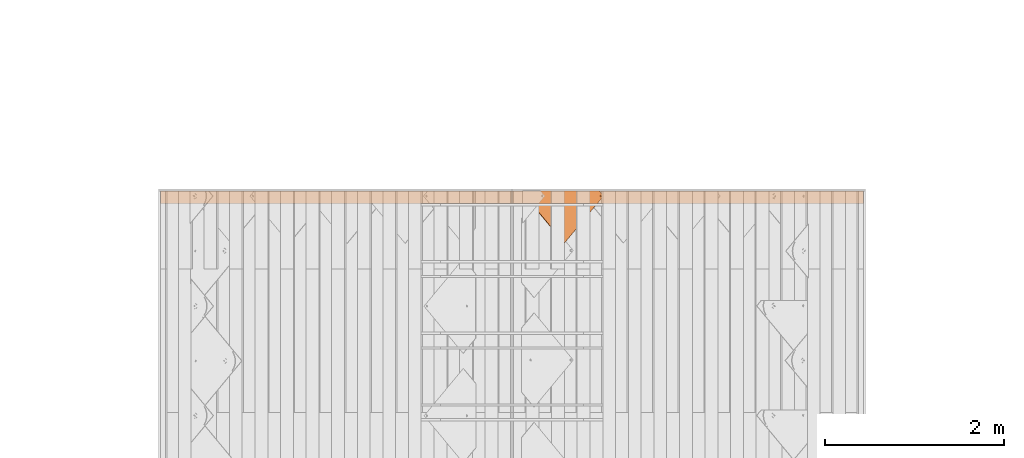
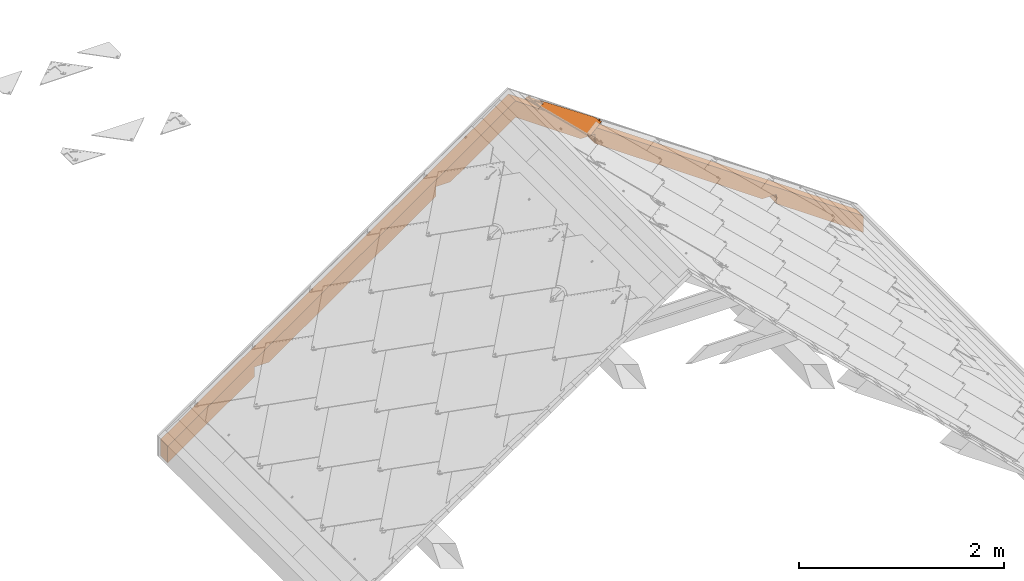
# One storey, part 94 of 151: 2 proxies, 1 element without a shape of its own.
"""IFC2X3 building model written with IfcOpenShell, lengths in millimetres."""

from ifc_helpers import new_model, entity, si_unit, converted_unit, derived_unit, direction, frame, origin, place, context, subcontext, project, spatial, polyline, outline, extrude, faceted_brep, source, transform, mapped, material, material_list, type_object, type_shapes, element, aggregate, save


model = new_model("IFC2X3")

# Units and contexts
model_context = context("Model", 3, precision=0.01, world=origin(), true_north=direction((6.12303176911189e-17, 1.0)))
body_context = subcontext(model_context, "Body", "Model", "MODEL_VIEW")
ifc_project = project(units=[si_unit("LENGTHUNIT", "METRE", prefix="MILLI"), si_unit("AREAUNIT", "SQUARE_METRE"), si_unit("VOLUMEUNIT", "CUBIC_METRE"), converted_unit("PLANEANGLEUNIT", "DEGREE", entity("IfcRatioMeasure", 0.0174532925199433), si_unit("PLANEANGLEUNIT", "RADIAN"), dimensions=[0, 0, 0, 0, 0, 0, 0]), si_unit("MASSUNIT", "GRAM", prefix="KILO"), derived_unit("MASSDENSITYUNIT", [(si_unit("MASSUNIT", "GRAM", prefix="KILO"), 1), (si_unit("LENGTHUNIT", "METRE"), -3)]), si_unit("TIMEUNIT", "SECOND"), si_unit("FREQUENCYUNIT", "HERTZ"), si_unit("THERMODYNAMICTEMPERATUREUNIT", "DEGREE_CELSIUS"), derived_unit("THERMALTRANSMITTANCEUNIT", [(si_unit("MASSUNIT", "GRAM", prefix="KILO"), 1), (si_unit("THERMODYNAMICTEMPERATUREUNIT", "KELVIN"), -1), (si_unit("TIMEUNIT", "SECOND"), -3)]), derived_unit("VOLUMETRICFLOWRATEUNIT", [(si_unit("LENGTHUNIT", "METRE"), 3), (si_unit("TIMEUNIT", "SECOND"), -1)]), si_unit("ELECTRICCURRENTUNIT", "AMPERE"), si_unit("ELECTRICVOLTAGEUNIT", "VOLT"), si_unit("POWERUNIT", "WATT"), si_unit("FORCEUNIT", "NEWTON", prefix="KILO"), si_unit("ILLUMINANCEUNIT", "LUX"), si_unit("LUMINOUSFLUXUNIT", "LUMEN"), si_unit("LUMINOUSINTENSITYUNIT", "CANDELA"), derived_unit("USERDEFINED", [(si_unit("MASSUNIT", "GRAM", prefix="KILO"), -1), (si_unit("LENGTHUNIT", "METRE"), -2), (si_unit("TIMEUNIT", "SECOND"), 3), (si_unit("LUMINOUSFLUXUNIT", "LUMEN"), 1)]), derived_unit("LINEARVELOCITYUNIT", [(si_unit("LENGTHUNIT", "METRE"), 1), (si_unit("TIMEUNIT", "SECOND"), -1)]), si_unit("PRESSUREUNIT", "PASCAL"), derived_unit("USERDEFINED", [(si_unit("LENGTHUNIT", "METRE"), -2), (si_unit("MASSUNIT", "GRAM", prefix="KILO"), 1), (si_unit("TIMEUNIT", "SECOND"), -2)])], contexts=[model_context])

# Site, building, storey
site_placement = place(None, origin())
site = spatial("IfcSite", under=ifc_project, at=site_placement, Name="Default", CompositionType="ELEMENT")
building_placement = place(site_placement, origin())
building = spatial("IfcBuilding", under=site, at=building_placement, CompositionType="ELEMENT")
storey_placement = place(building_placement, origin())
storey = spatial("IfcBuildingStorey", under=building, at=storey_placement, Name="Level 1", CompositionType="ELEMENT", Elevation=0.0)

# Assembly, proxy
assembly_placement = place(storey_placement, origin())
assembly = element("IfcElementAssembly", 1, at=assembly_placement, inside=storey, Name="Structural Framing Assembly:Roof Construction Assembly", ObjectType="Structural Framing Assembly:Roof Construction Assembly", AssemblyPlace="NOTDEFINED", PredefinedType="USERDEFINED")
ifc_material_1 = material(Name="Wood - Generic - Wood For Showcase")
building_element_proxy_type_1 = type_object("IfcBuildingElementProxyType", Name="Structural Framing 1", PredefinedType="NOTDEFINED", material=ifc_material_1)
shared_shape_1 = source(origin(), body_context, "Body", "SweptSolid", [
    extrude(outline(polyline([(-929.245683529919, -1327.10037070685), (3863.25950492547, -1327.10037070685), (3975.29271103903, -1167.10037070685), (2778.93361405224, -1167.10037070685), (2713.54351952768, -1260.48710386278), (2580.17344271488, -1167.10037070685), (278.93361405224, -1167.10037070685), (213.543519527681, -1260.48710386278), (80.1734427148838, -1167.10037070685), (-817.212477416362, -1167.10037070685), (-1124.13653843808, -323.833443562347), (-1257.50661525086, -230.446710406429), (-1192.11652072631, -137.059977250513), (-1979.18689675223, 2025.39810840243), (-2112.55697356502, 2118.78484155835), (-2047.16687904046, 2212.17157471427), (-2456.34578886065, 3336.38138996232), (-2568.37899497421, 3176.38138996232), (-929.245683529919, -1327.10037070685)])), frame((1206.77890726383, 3785.55080214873, 1179.90959070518), z_axis=(0.0, 1.0, 0.0), x_axis=(0.819152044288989, 0.0, -0.573576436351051)), (0.0, 0.0, 1.0), 140.0),
])
type_shapes(building_element_proxy_type_1, [shared_shape_1])
proxy_1_placement = place(assembly_placement, frame((57.4878711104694, 0.0, 0.0)))
proxy_1 = element("IfcBuildingElementProxy", 2, at=proxy_1_placement, type_object=building_element_proxy_type_1, material=ifc_material_1, Name="Structural Framing 1:Structural Framing 1", ObjectType="Structural Framing 1:Structural Framing 1", context=body_context, shape_type="MappedRepresentation", body=[
    mapped(shared_shape_1, transform((0.0, 0.0, 0.0), scale=1.0)),
])
aggregate(assembly, [proxy_1])

# Proxy
ifc_material_2 = material(Name="Rubber - Sunstyle - Black")
ifc_material_3 = material(Name="Glass - Sunstyle - Tainted Black")
ifc_material_list_1 = material_list([ifc_material_2, ifc_material_3])
ifc_material_list_2 = material_list([ifc_material_2, ifc_material_3])
building_element_proxy_type_2 = type_object("IfcBuildingElementProxyType", Name="Shingle Right - Black", PredefinedType="NOTDEFINED", material=ifc_material_list_2)
shared_shape_2 = source(origin(), body_context, "Body", "Brep", [
    faceted_brep([(526.70519509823, 41.3127833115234, 3.87722628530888), (520.930992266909, 37.9795131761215, 3.9330502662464), (520.930992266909, 38.34782226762, 25.9249196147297), (526.70519509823, 41.6810924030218, 25.8690956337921), (520.930992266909, 31.3129729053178, 4.0446982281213), (520.930992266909, 31.6812819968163, 26.0365675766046), (526.70519509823, 27.979702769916, 4.1005222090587), (526.70519509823, 28.3480118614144, 26.092391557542), (532.47939792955, 31.3129729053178, 4.04469822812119), (532.47939792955, 31.6812819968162, 26.0365675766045), (532.47939792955, 37.9795131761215, 3.93305026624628), (532.47939792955, 38.3478222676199, 25.9249196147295), (518.101490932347, 26.4120542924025, 26.1248140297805), (526.70519509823, 22.8487830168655, 26.1844899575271), (514.537719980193, 35.0145521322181, 25.9807435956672), (518.101490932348, 43.6170499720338, 25.8366731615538), (526.70519509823, 47.1803212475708, 25.776997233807), (535.308899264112, 43.6170499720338, 25.8366731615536), (538.872670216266, 35.0145521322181, 25.9807435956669), (535.308899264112, 26.4120542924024, 26.1248140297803), (515.380950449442, 37.3096292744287, 28.2935855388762), (516.94872054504, 35.0855670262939, 30.2210682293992), (526.70519509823, 42.3986422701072, 30.8537686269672), (526.70519509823, 43.6391399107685, 30.2734219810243), (526.70519509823, 45.7966907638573, 29.2640469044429), (526.70519509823, 23.4048270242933, 27.4595479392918), (526.70519509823, 24.3484036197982, 29.6232523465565), (526.70519509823, 27.7977793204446, 31.0982967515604), (526.70519509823, 46.6672851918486, 27.0699596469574), (520.381949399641, 31.4479950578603, 31.0371647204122), (520.381949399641, 38.7484265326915, 30.9149006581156), (538.029439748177, 32.7982090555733, 28.3691406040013), (536.554075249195, 34.0111605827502, 30.1422000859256), (533.028440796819, 38.7484265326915, 30.9149006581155), (533.028440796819, 31.4479950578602, 31.0371647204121), (520.381949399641, 31.5820235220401, 39.0400528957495), (526.70519509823, 27.9318077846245, 39.1011849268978), (526.70519509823, 35.2322392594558, 38.9789208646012), (520.381949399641, 38.8824549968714, 38.9177888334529), (533.028440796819, 31.5820235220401, 39.0400528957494), (533.028440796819, 38.8824549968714, 38.9177888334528), (526.70519509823, 42.532670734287, 38.8566568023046), (526.70519509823, 34.6462430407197, 3.98887424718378)], [[[0, 1, 2, 3]], [[1, 4, 5, 2]], [[4, 6, 7, 5]], [[6, 8, 9, 7]], [[8, 10, 11, 9]], [[10, 0, 3, 11]], [[12, 7, 13]], [[7, 12, 5]], [[14, 5, 12]], [[5, 14, 2]], [[15, 2, 14]], [[3, 2, 15]], [[15, 16, 3]], [[16, 17, 3]], [[11, 3, 17]], [[11, 17, 18]], [[9, 11, 18]], [[18, 19, 9]], [[7, 9, 19]], [[19, 13, 7]], [[20, 14, 12]], [[21, 22, 23, 24]], [[24, 20, 21]], [[25, 20, 12]], [[26, 27, 21]], [[15, 14, 20]], [[12, 13, 25]], [[20, 28, 15]], [[28, 20, 24]], [[21, 27, 29]], [[21, 29, 30]], [[26, 21, 20]], [[20, 25, 26]], [[15, 28, 16]], [[21, 30, 22]], [[31, 18, 17]], [[28, 31, 17]], [[32, 27, 26]], [[26, 31, 32]], [[26, 25, 31]], [[25, 19, 31]], [[17, 16, 28]], [[31, 19, 18]], [[24, 31, 28]], [[33, 34, 32]], [[23, 22, 33]], [[24, 32, 31]], [[27, 32, 34]], [[32, 23, 33]], [[19, 25, 13]], [[32, 24, 23]], [[35, 36, 37]], [[37, 38, 35]], [[36, 39, 37]], [[40, 37, 39]], [[37, 40, 41]], [[37, 41, 38]], [[42, 6, 4]], [[4, 1, 42]], [[1, 0, 42]], [[42, 8, 6]], [[0, 10, 42]], [[8, 42, 10]], [[22, 30, 38, 41]], [[30, 29, 35, 38]], [[29, 27, 36, 35]], [[27, 34, 39, 36]], [[34, 33, 40, 39]], [[33, 22, 41, 40]]]),
    faceted_brep([(526.70519509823, 811.19100538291, 21.4210230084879), (526.70519509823, 815.690374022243, 21.3456697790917), (518.101490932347, 814.754276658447, 21.3613470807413), (535.308899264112, 814.754276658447, 21.3613470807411), (533.345423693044, 819.523574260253, 21.2814732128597), (538.872670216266, 823.356774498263, 21.2172766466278), (533.345423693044, 827.189974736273, 21.1530800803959), (535.308899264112, 831.959272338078, 21.0732062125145), (526.70519509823, 831.023174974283, 21.0888835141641), (526.70519509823, 835.522543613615, 21.0135302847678), (518.101490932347, 831.959272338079, 21.0732062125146), (520.064966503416, 827.189974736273, 21.1530800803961), (514.537719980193, 823.356774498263, 21.217276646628), (520.064966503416, 819.523574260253, 21.2814732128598), (520.064966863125, 826.922051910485, 5.15532344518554), (526.70519509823, 830.755251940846, 5.09112688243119), (520.064966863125, 819.255651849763, 5.2837165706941), (526.70519509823, 815.422451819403, 5.34791313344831), (533.345423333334, 819.255651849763, 5.28371657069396), (533.345423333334, 826.922051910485, 5.1553234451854), (518.101490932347, 814.486354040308, 5.36359044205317), (526.70519509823, 810.923082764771, 5.4232663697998), (514.537719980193, 823.088851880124, 5.21952000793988), (518.101490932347, 831.69134971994, 5.07544957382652), (526.70519509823, 835.254620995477, 5.01577364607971), (535.308899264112, 831.69134971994, 5.07544957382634), (538.872670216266, 823.088851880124, 5.21952000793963), (535.308899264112, 814.486354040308, 5.36359044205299)], [[[0, 1, 2]], [[1, 0, 3]], [[3, 4, 1]], [[4, 3, 5]], [[6, 4, 5]], [[5, 7, 6]], [[7, 8, 6]], [[8, 7, 9]], [[8, 9, 10]], [[10, 11, 8]], [[12, 11, 10]], [[2, 13, 12]], [[12, 13, 11]], [[13, 2, 1]], [[8, 11, 14, 15]], [[11, 13, 16, 14]], [[13, 1, 17, 16]], [[1, 4, 18, 17]], [[4, 6, 19, 18]], [[6, 8, 15, 19]], [[20, 17, 21]], [[17, 20, 16]], [[22, 16, 20]], [[14, 16, 22]], [[23, 14, 22]], [[15, 14, 23]], [[23, 24, 15]], [[24, 25, 15]], [[19, 15, 25]], [[19, 25, 26]], [[26, 18, 19]], [[26, 27, 18]], [[17, 18, 27]], [[27, 21, 17]], [[24, 23, 10, 9]], [[10, 23, 22, 12]], [[20, 21, 0, 2]], [[20, 2, 12, 22]], [[21, 27, 3, 0]], [[3, 27, 26, 5]], [[25, 24, 9, 7]], [[25, 7, 5, 26]]]),
    faceted_brep([(578.30986553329, 967.15023469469, 8.79467739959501), (586.794551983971, 975.634921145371, 8.65258001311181), (586.794551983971, 975.660038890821, 10.1523696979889), (578.30986553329, 967.17535244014, 10.294467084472), (517.891471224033, 1027.55168765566, 7.7831033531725), (8.48468645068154, 518.287740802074, 16.3120073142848), (0.0, 526.772427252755, 16.1699099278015), (517.891471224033, 1044.51868144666, 7.49894842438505), (517.891471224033, 1044.54379919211, 8.99873810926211), (0.0, 526.797544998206, 17.6696996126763), (8.4846864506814, 518.312858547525, 17.8117969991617), (517.891471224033, 1027.57680540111, 9.28289303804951)], [[[0, 1, 2, 3]], [[1, 0, 4, 5, 6, 7]], [[2, 1, 7, 8]], [[3, 2, 8, 9, 10, 11]], [[0, 3, 11, 4]], [[5, 10, 9, 6]], [[8, 7, 6, 9]], [[4, 11, 10, 5]]]),
    faceted_brep([(586.794551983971, 975.634921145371, 8.65258001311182), (517.891471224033, 1044.51868144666, 7.49894842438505), (523.812678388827, 834.561085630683, 11.0152157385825), (526.918506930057, 834.969918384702, 11.0083688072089), (530.024335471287, 834.561085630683, 11.0152157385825), (532.918506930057, 833.362448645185, 11.0352899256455), (535.403788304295, 831.455692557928, 11.0672233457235), (537.31081177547, 828.970759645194, 11.1088397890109), (538.509616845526, 826.076993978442, 11.1573031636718), (538.918506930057, 822.971600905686, 11.2093107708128), (538.509616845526, 819.86620783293, 11.2613183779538), (586.79455198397, 60.1087646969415, 23.9853651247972), (520.918506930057, 833.362448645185, 11.0352899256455), (518.433225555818, 831.455692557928, 11.0672233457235), (516.526202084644, 828.970759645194, 11.1088397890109), (515.327397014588, 826.076993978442, 11.1573031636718), (0.0, 526.772427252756, 16.1699099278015), (514.918506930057, 822.971600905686, 11.2093107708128), (515.327397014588, 819.86620783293, 11.2613183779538), (516.526202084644, 816.972442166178, 11.3097817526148), (518.433225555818, 814.487509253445, 11.3513981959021), (520.918506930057, 812.580753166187, 11.3833316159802), (523.812678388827, 811.382116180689, 11.4034058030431), (524.667140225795, 42.642731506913, 24.2778777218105), (522.737692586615, 41.8436401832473, 24.2912605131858), (521.080838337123, 40.572469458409, 24.3125494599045), (519.80948935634, 38.9158475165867, 24.3402937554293), (519.010285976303, 36.9866704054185, 24.37260267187), (518.737692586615, 34.9164083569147, 24.407274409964), (519.010285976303, 32.8461463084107, 24.441946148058), (526.794551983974, 0.125588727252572, 24.989934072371), (519.80948935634, 30.9169691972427, 24.4742550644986), (533.665895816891, 30.9169691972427, 24.4742550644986), (532.394546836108, 29.2603472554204, 24.5019993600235), (530.737692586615, 27.9891765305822, 24.5232883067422), (528.808244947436, 27.1900852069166, 24.5366710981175), (526.737692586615, 26.9175300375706, 24.5412357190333), (524.667140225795, 27.1900852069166, 24.5366710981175), (522.737692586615, 27.9891765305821, 24.5232883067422), (521.080838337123, 29.2603472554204, 24.5019993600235), (526.737692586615, 42.9152866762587, 24.2733131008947), (528.808244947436, 42.6427315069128, 24.2778777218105), (530.737692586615, 41.8436401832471, 24.2912605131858), (532.394546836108, 40.572469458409, 24.3125494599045), (533.665895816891, 38.9158475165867, 24.3402937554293), (534.465099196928, 36.9866704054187, 24.37260267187), (534.737692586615, 34.9164083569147, 24.407274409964), (534.465099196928, 32.8461463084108, 24.441946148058), (526.918506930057, 810.97328342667, 11.4102527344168), (537.31081177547, 816.972442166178, 11.3097817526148), (535.403788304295, 814.487509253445, 11.3513981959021), (532.918506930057, 812.580753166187, 11.3833316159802), (530.024335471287, 811.382116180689, 11.4034058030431), (0.0, 526.646838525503, 8.67096150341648), (519.80948935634, 38.790258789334, 16.8413453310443), (519.010285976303, 36.8610816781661, 16.8736542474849), (521.080838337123, 40.4468807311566, 16.8136010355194), (518.737692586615, 34.7908196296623, 16.9083259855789), (519.010285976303, 32.7205575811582, 16.9429977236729), (526.794551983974, 0.0, 17.4909856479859), (522.737692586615, 41.7180514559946, 16.7923120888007), (524.667140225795, 42.5171427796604, 16.7789292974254), (523.812678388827, 811.256527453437, 3.90445737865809), (520.918506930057, 812.455164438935, 3.88438319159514), (518.433225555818, 814.361920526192, 3.85244977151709), (516.526202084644, 816.846853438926, 3.81083332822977), (515.327397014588, 819.740619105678, 3.76236995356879), (514.918506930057, 822.846012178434, 3.71036234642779), (515.327397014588, 825.95140525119, 3.65835473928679), (517.891471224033, 1044.39309271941, 0.0), (516.526202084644, 828.845170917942, 3.60989136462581), (518.433225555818, 831.330103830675, 3.56827492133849), (520.918506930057, 833.236859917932, 3.53634150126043), (523.812678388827, 834.435496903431, 3.51626731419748), (586.794551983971, 975.509332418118, 1.15363158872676), (526.918506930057, 834.84432965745, 3.50942038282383), (530.024335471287, 834.435496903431, 3.51626731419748), (532.918506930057, 833.236859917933, 3.53634150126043), (535.403788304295, 831.330103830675, 3.56827492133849), (537.31081177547, 828.845170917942, 3.60989136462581), (538.509616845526, 825.95140525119, 3.65835473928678), (538.918506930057, 822.846012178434, 3.71036234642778), (538.509616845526, 819.740619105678, 3.76236995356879), (586.79455198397, 59.983175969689, 16.4864167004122), (526.737692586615, 42.7896979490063, 16.7743646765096), (528.808244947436, 42.5171427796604, 16.7789292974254), (530.737692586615, 41.7180514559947, 16.7923120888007), (532.394546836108, 40.4468807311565, 16.8136010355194), (533.665895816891, 30.7913804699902, 16.9753066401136), (534.465099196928, 32.7205575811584, 16.9429977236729), (534.737692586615, 34.7908196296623, 16.9083259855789), (534.465099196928, 36.8610816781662, 16.8736542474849), (533.665895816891, 38.7902587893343, 16.8413453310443), (526.918506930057, 810.847694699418, 3.91130431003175), (530.024335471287, 811.256527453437, 3.90445737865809), (532.918506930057, 812.455164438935, 3.88438319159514), (535.403788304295, 814.361920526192, 3.85244977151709), (537.31081177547, 816.846853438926, 3.81083332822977), (519.80948935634, 30.7913804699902, 16.9753066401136), (521.080838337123, 29.134758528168, 17.0030509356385), (522.737692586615, 27.8635878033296, 17.0243398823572), (524.667140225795, 27.0644964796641, 17.0377226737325), (526.737692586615, 26.7919413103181, 17.0422872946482), (528.808244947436, 27.0644964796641, 17.0377226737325), (530.737692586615, 27.8635878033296, 17.0243398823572), (532.394546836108, 29.1347585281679, 17.0030509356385)], [[[0, 1, 2]], [[0, 2, 3]], [[3, 4, 0]], [[4, 5, 0]], [[0, 5, 6]], [[6, 7, 0]], [[7, 8, 0]], [[8, 9, 0]], [[9, 10, 0]], [[0, 10, 11]], [[2, 1, 12]], [[13, 12, 1]], [[14, 13, 1]], [[14, 1, 15]], [[15, 1, 16]], [[16, 17, 15]], [[17, 16, 18]], [[19, 18, 16]], [[19, 16, 20]], [[21, 20, 16]], [[22, 21, 16]], [[23, 22, 16]], [[24, 23, 16]], [[16, 25, 24]], [[25, 16, 26]], [[26, 16, 27]], [[28, 27, 16]], [[28, 16, 29]], [[29, 16, 30]], [[30, 31, 29]], [[11, 32, 30]], [[30, 32, 33]], [[34, 30, 33]], [[34, 35, 30]], [[36, 30, 35]], [[30, 36, 37]], [[37, 38, 30]], [[38, 39, 30]], [[39, 31, 30]], [[23, 11, 22]], [[11, 23, 40]], [[11, 40, 41]], [[11, 41, 42]], [[42, 43, 11]], [[44, 11, 43]], [[44, 45, 11]], [[45, 46, 11]], [[47, 11, 46]], [[11, 47, 32]], [[22, 11, 48]], [[10, 49, 11]], [[49, 50, 11]], [[50, 51, 11]], [[51, 52, 11]], [[52, 48, 11]], [[53, 54, 55]], [[54, 53, 56]], [[53, 55, 57]], [[57, 58, 53]], [[53, 58, 59]], [[60, 56, 53]], [[61, 60, 53]], [[61, 53, 62]], [[62, 53, 63]], [[53, 64, 63]], [[64, 53, 65]], [[65, 53, 66]], [[66, 53, 67]], [[67, 53, 68]], [[53, 69, 68]], [[70, 68, 69]], [[71, 70, 69]], [[69, 72, 71]], [[73, 72, 69]], [[73, 69, 74]], [[75, 73, 74]], [[75, 74, 76]], [[77, 76, 74]], [[74, 78, 77]], [[79, 78, 74]], [[80, 79, 74]], [[80, 74, 81]], [[81, 74, 82]], [[82, 74, 83]], [[84, 61, 83]], [[83, 85, 84]], [[86, 85, 83]], [[83, 87, 86]], [[59, 88, 83]], [[83, 88, 89]], [[90, 83, 89]], [[90, 91, 83]], [[91, 92, 83]], [[87, 83, 92]], [[62, 83, 61]], [[93, 83, 62]], [[83, 93, 94]], [[94, 95, 83]], [[83, 95, 96]], [[96, 97, 83]], [[97, 82, 83]], [[59, 58, 98]], [[99, 59, 98]], [[99, 100, 59]], [[100, 101, 59]], [[102, 59, 101]], [[59, 102, 103]], [[59, 103, 104]], [[104, 105, 59]], [[105, 88, 59]], [[16, 1, 69, 53]], [[30, 16, 53, 59]], [[11, 30, 59, 83]], [[1, 0, 74, 69]], [[28, 57, 55, 27]], [[27, 55, 54, 26]], [[24, 25, 56, 60]], [[56, 25, 26, 54]], [[23, 24, 60, 61]], [[23, 61, 84, 40]], [[40, 84, 85, 41]], [[41, 85, 86, 42]], [[44, 43, 87, 92]], [[87, 43, 42, 86]], [[45, 44, 92, 91]], [[45, 91, 90, 46]], [[46, 90, 89, 47]], [[47, 89, 88, 32]], [[34, 33, 105, 104]], [[105, 33, 32, 88]], [[35, 34, 104, 103]], [[35, 103, 102, 36]], [[36, 102, 101, 37]], [[37, 101, 100, 38]], [[31, 39, 99, 98]], [[39, 38, 100, 99]], [[58, 29, 31, 98]], [[29, 58, 57, 28]], [[17, 67, 68, 15]], [[15, 68, 70, 14]], [[12, 13, 71, 72]], [[71, 13, 14, 70]], [[2, 12, 72, 73]], [[2, 73, 75, 3]], [[3, 75, 76, 4]], [[4, 76, 77, 5]], [[7, 6, 78, 79]], [[78, 6, 5, 77]], [[8, 7, 79, 80]], [[8, 80, 81, 9]], [[9, 81, 82, 10]], [[10, 82, 97, 49]], [[51, 50, 96, 95]], [[96, 50, 49, 97]], [[52, 51, 95, 94]], [[52, 94, 93, 48]], [[48, 93, 62, 22]], [[22, 62, 63, 21]], [[19, 20, 64, 65]], [[64, 20, 21, 63]], [[18, 19, 65, 66]], [[18, 66, 67, 17]], [[0, 11, 83, 74]]]),
    faceted_brep([(503.195324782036, 841.557074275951, 20.8994526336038), (517.914693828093, 832.008099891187, 21.0593741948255), (507.695869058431, 846.190079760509, 20.8218613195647), (516.007670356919, 829.523166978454, 21.1009906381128), (499.815755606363, 836.052923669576, 20.9916334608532), (514.808865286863, 826.629401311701, 21.1494540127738), (497.720422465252, 829.943523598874, 21.0939507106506), (514.399975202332, 823.524008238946, 21.2014616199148), (497.010547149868, 823.524008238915, 21.2014616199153), (514.808865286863, 820.41861516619, 21.2534692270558), (516.007670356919, 817.524849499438, 21.3019326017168), (517.914693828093, 815.039916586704, 21.3435490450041), (526.399975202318, 794.138700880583, 21.6935924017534), (520.399975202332, 813.133160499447, 21.3754824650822), (523.294146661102, 811.934523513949, 21.3955566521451), (526.399975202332, 811.52569075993, 21.4024035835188), (529.505803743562, 811.934523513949, 21.3955566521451), (532.399975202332, 813.133160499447, 21.3754824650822), (534.885256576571, 815.039916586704, 21.3435490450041), (555.789403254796, 823.524008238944, 21.2014616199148), (536.792280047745, 817.524849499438, 21.3019326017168), (537.991085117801, 820.41861516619, 21.2534692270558), (538.399975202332, 823.524008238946, 21.2014616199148), (555.079527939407, 829.943523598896, 21.0939507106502), (537.991085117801, 826.629401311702, 21.1494540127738), (552.984194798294, 836.052923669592, 20.9916334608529), (536.792280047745, 829.523166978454, 21.1009906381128), (549.604625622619, 841.557074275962, 20.8994526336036), (534.88525657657, 832.008099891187, 21.0593741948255), (545.104081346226, 846.190079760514, 20.8218613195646), (532.399975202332, 833.914855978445, 21.0274407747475), (539.69997520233, 849.728127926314, 20.7626078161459), (529.505803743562, 835.113492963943, 21.0073665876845), (526.399975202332, 835.522325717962, 21.0005196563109), (513.09997520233, 849.728127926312, 20.762607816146), (513.099975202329, 947.789128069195, 19.1203300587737), (539.699975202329, 948.373752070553, 19.1105390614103), (522.252457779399, 973.425526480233, 18.6909841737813), (556.520926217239, 971.308509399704, 18.7264389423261), (565.239246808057, 944.126992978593, 19.1816617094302), (589.568348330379, 961.999667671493, 18.8823388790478), (589.568348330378, 935.274464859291, 19.3299195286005), (488.310294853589, 968.25512753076, 18.7775754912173), (488.729131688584, 942.717602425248, 19.2052654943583), (456.227055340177, 956.030775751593, 18.9823029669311), (465.633151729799, 933.432284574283, 19.3607714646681), (444.534595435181, 920.223666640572, 19.5819829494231), (427.451419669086, 937.304447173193, 19.2959223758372), (520.399975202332, 833.914855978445, 21.0274407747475), (523.294146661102, 835.113492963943, 21.0073665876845), (526.399975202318, 793.971249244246, 11.6949945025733), (526.399975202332, 811.358239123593, 11.4038056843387), (529.505803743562, 811.767071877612, 11.396958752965), (523.294146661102, 811.767071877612, 11.396958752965), (532.399975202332, 812.96570886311, 11.3768845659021), (534.885256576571, 814.872464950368, 11.344951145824), (555.789403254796, 823.356556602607, 11.2028637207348), (520.399975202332, 812.96570886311, 11.3768845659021), (517.914693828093, 814.872464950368, 11.344951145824), (497.010547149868, 823.356556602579, 11.2028637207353), (516.007670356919, 817.357397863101, 11.3033347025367), (514.808865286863, 820.251163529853, 11.2548713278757), (514.399975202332, 823.356556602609, 11.2028637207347), (497.720422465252, 829.776071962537, 11.0953528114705), (514.808865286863, 826.461949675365, 11.1508561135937), (499.815755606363, 835.885472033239, 10.9930355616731), (516.007670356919, 829.355715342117, 11.1023927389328), (503.195324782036, 841.389622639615, 10.9008547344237), (517.914693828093, 831.84064825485, 11.0607762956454), (507.695869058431, 846.022628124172, 10.8232634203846), (520.399975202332, 833.747404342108, 11.0288428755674), (513.09997520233, 849.560676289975, 10.7640099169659), (523.294146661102, 834.946041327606, 11.0087686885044), (526.399975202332, 835.354874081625, 11.0019217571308), (539.69997520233, 849.560676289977, 10.7640099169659), (513.099975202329, 947.621676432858, 9.12173215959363), (539.69997520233, 948.206300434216, 9.11194116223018), (522.252457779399, 973.258074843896, 8.69238627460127), (488.310294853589, 968.087675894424, 8.77897759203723), (488.729131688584, 942.550150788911, 9.20666759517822), (456.227055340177, 955.863324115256, 8.98370506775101), (465.633151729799, 933.264832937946, 9.36217356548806), (444.533467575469, 920.055518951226, 9.58339670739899), (428.044288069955, 936.544210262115, 9.30725215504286), (421.793762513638, 931.184466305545, 9.39701453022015), (415.826529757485, 925.515365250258, 9.49195786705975), (418.207622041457, 893.733364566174, 10.0242272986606), (401.122816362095, 910.815774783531, 9.73813943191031), (427.451419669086, 937.136995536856, 9.29732447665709), (556.520926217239, 971.141057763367, 8.727841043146), (565.239246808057, 943.959541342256, 9.18306381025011), (589.568348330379, 961.832216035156, 8.88374097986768), (589.568348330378, 935.107013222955, 9.33132162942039), (529.505803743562, 834.946041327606, 11.0087686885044), (532.399975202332, 833.747404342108, 11.0288428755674), (545.104081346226, 846.022628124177, 10.8232634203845), (534.88525657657, 831.84064825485, 11.0607762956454), (549.604625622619, 841.389622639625, 10.9008547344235), (536.792280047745, 829.355715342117, 11.1023927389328), (552.984194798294, 835.885472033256, 10.9930355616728), (537.991085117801, 826.461949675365, 11.1508561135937), (555.079527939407, 829.77607196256, 11.0953528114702), (538.399975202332, 823.356556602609, 11.2028637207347), (537.991085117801, 820.251163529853, 11.2548713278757), (536.792280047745, 817.357397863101, 11.3033347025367), (415.826529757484, 925.557228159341, 11.9916073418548), (401.122816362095, 910.857637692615, 12.2377889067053), (418.207622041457, 893.775227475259, 12.5238767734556), (444.534595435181, 920.09807791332, 12.083034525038), (428.042008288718, 936.584216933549, 11.8069327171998), (421.793762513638, 931.226329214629, 11.8966640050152)], [[[0, 1, 2]], [[3, 1, 0]], [[4, 3, 0]], [[5, 3, 4]], [[4, 6, 5]], [[6, 7, 5]], [[7, 6, 8]], [[9, 7, 8]], [[10, 9, 8]], [[10, 8, 11]], [[8, 12, 11]], [[13, 11, 12]], [[13, 12, 14]], [[12, 15, 14]], [[15, 12, 16]], [[16, 12, 17]], [[18, 17, 12]], [[18, 12, 19]], [[19, 20, 18]], [[21, 20, 19]], [[22, 21, 19]], [[19, 23, 22]], [[24, 22, 23]], [[23, 25, 24]], [[25, 26, 24]], [[26, 25, 27]], [[28, 26, 27]], [[27, 29, 28]], [[30, 28, 29]], [[29, 31, 30]], [[30, 31, 32]], [[32, 31, 33]], [[31, 34, 33]], [[35, 34, 31]], [[35, 31, 36]], [[36, 37, 35]], [[36, 38, 37]], [[39, 38, 36]], [[38, 39, 40]], [[41, 40, 39]], [[37, 42, 35]], [[35, 42, 43]], [[43, 42, 44]], [[44, 45, 43]], [[44, 46, 45]], [[46, 44, 47]], [[48, 34, 2]], [[48, 49, 34]], [[34, 49, 33]], [[48, 2, 1]], [[50, 51, 52]], [[51, 50, 53]], [[50, 52, 54]], [[54, 55, 50]], [[50, 55, 56]], [[57, 53, 50]], [[58, 57, 50]], [[58, 50, 59]], [[59, 60, 58]], [[60, 59, 61]], [[61, 59, 62]], [[63, 62, 59]], [[64, 62, 63]], [[63, 65, 64]], [[64, 65, 66]], [[65, 67, 66]], [[68, 66, 67]], [[69, 68, 67]], [[69, 70, 68]], [[70, 69, 71]], [[71, 72, 70]], [[71, 73, 72]], [[74, 73, 71]], [[71, 75, 74]], [[75, 76, 74]], [[76, 75, 77]], [[77, 75, 78]], [[79, 78, 75]], [[80, 78, 79]], [[79, 81, 80]], [[81, 82, 80]], [[82, 83, 80]], [[84, 83, 82]], [[84, 82, 85]], [[82, 86, 85]], [[86, 87, 85]], [[83, 88, 80]], [[76, 77, 89]], [[89, 90, 76]], [[90, 89, 91]], [[91, 92, 90]], [[93, 73, 74]], [[74, 94, 93]], [[94, 74, 95]], [[95, 96, 94]], [[95, 97, 96]], [[96, 97, 98]], [[99, 98, 97]], [[99, 100, 98]], [[101, 100, 99]], [[102, 100, 101]], [[56, 102, 101]], [[103, 102, 56]], [[56, 55, 104]], [[103, 56, 104]], [[34, 35, 75, 71]], [[2, 34, 71, 69]], [[0, 2, 69, 67]], [[67, 65, 4, 0]], [[6, 4, 65, 63]], [[8, 6, 63, 59]], [[12, 8, 59, 50]], [[19, 12, 50, 56]], [[23, 19, 56, 101]], [[25, 23, 101, 99]], [[99, 97, 27, 25]], [[29, 27, 97, 95]], [[31, 29, 95, 74]], [[36, 31, 74, 76]], [[38, 40, 91, 89]], [[37, 38, 89, 77]], [[77, 78, 42, 37]], [[44, 42, 78, 80]], [[47, 44, 80, 88]], [[7, 62, 64, 5]], [[5, 64, 66, 3]], [[48, 1, 68, 70]], [[66, 68, 1, 3]], [[49, 48, 70, 72]], [[73, 33, 49, 72]], [[32, 93, 94, 30]], [[30, 94, 96, 28]], [[24, 26, 98, 100]], [[96, 98, 26, 28]], [[22, 24, 100, 102]], [[32, 33, 73, 93]], [[22, 102, 103, 21]], [[21, 103, 104, 20]], [[17, 18, 55, 54]], [[104, 55, 18, 20]], [[16, 17, 54, 52]], [[51, 15, 16, 52]], [[14, 53, 57, 13]], [[13, 57, 58, 11]], [[9, 10, 60, 61]], [[58, 60, 10, 11]], [[7, 9, 61, 62]], [[14, 15, 51, 53]], [[105, 106, 107, 108, 109, 110]], [[107, 106, 87, 86]], [[108, 107, 82]], [[86, 82, 107]], [[109, 83, 110]], [[110, 83, 84]], [[84, 85, 105, 110]], [[106, 105, 85, 87]], [[46, 47, 109]], [[109, 47, 88]], [[46, 109, 108]], [[83, 109, 88]], [[108, 81, 45, 46]], [[108, 82, 81]], [[79, 75, 35, 43]], [[81, 79, 43, 45]], [[76, 90, 39, 36]], [[92, 41, 39, 90]], [[40, 41, 92, 91]]]),
])
type_shapes(building_element_proxy_type_2, [shared_shape_2])
proxy_2_placement = place(storey_placement, frame((2271.39913291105, 3344.73147734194, 2125.47535232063), z_axis=(0.573576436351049, 0.0, 0.81915204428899), x_axis=(0.0, 1.0, 0.0)))
element("IfcBuildingElementProxy", 3, at=proxy_2_placement, inside=storey, type_object=building_element_proxy_type_2, material=ifc_material_list_1, Name="Roofing_Panels_SunStyle_Tile_Shingle-Right:Shingle Right - Black", ObjectType="Roofing_Panels_SunStyle_Tile_Shingle-Right:Shingle Right - Black", context=body_context, shape_type="MappedRepresentation", body=[
    mapped(shared_shape_2, transform((0.0, 0.0, 0.0), scale=1.0)),
])

save(model, "model.ifc")
